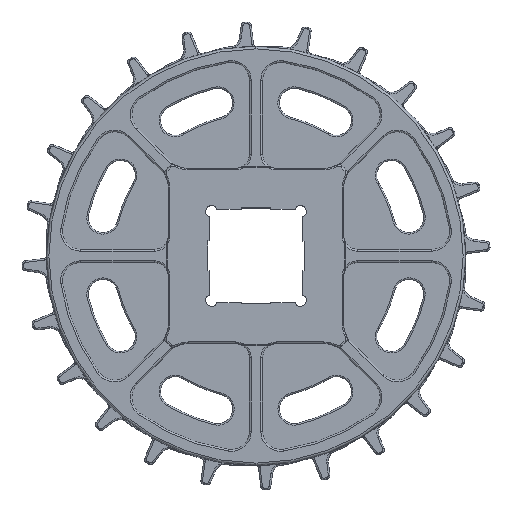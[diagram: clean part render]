
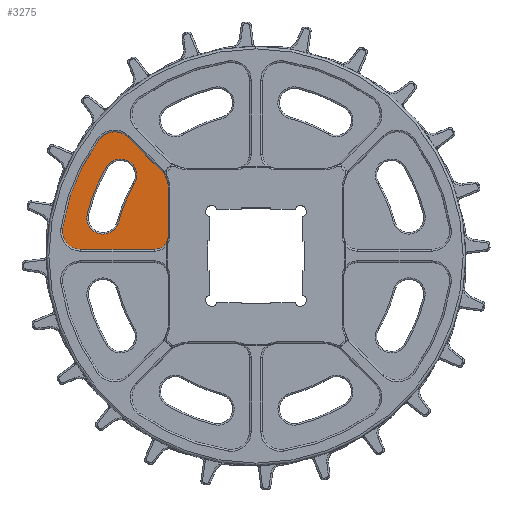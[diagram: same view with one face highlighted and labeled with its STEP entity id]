
A CAD part, top view. The second image highlights one B-rep face of the part: STEP entity #3275.
In plain terms, the highlighted planar face has unit normal (0, 0, 1).
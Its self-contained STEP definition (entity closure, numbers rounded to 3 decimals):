
#3275=ADVANCED_FACE('',(#4997,#4998),#4791,.F.);
#4791=PLANE('',#25807);
#4997=FACE_BOUND('',#5077,.T.);
#4998=FACE_BOUND('',#5078,.T.);
#5077=EDGE_LOOP('',(#9981,#9982,#9983,#9984,#9985));
#5078=EDGE_LOOP('',(#9986,#9987,#9988,#9989,#9990,#9991,#9992,#9993,#9994,
#9995,#9996,#9997,#9998));
#6747=LINE('',#36138,#7545);
#6748=LINE('',#36148,#7546);
#6749=LINE('',#36159,#7547);
#7545=VECTOR('',#28831,1.);
#7546=VECTOR('',#28840,1.);
#7547=VECTOR('',#28845,1.);
#8419=CIRCLE('',#25795,6.96);
#8420=CIRCLE('',#25796,6.96);
#8421=CIRCLE('',#25797,60.67);
#8422=CIRCLE('',#25798,6.96);
#8423=CIRCLE('',#25799,74.589);
#8424=CIRCLE('',#25800,7.75);
#8425=CIRCLE('',#25801,8.356);
#8426=CIRCLE('',#25802,83.809);
#8427=CIRCLE('',#25803,7.851);
#8428=CIRCLE('',#25804,7.851);
#8429=CIRCLE('',#25805,6.034);
#8430=CIRCLE('',#25806,5.961);
#9981=ORIENTED_EDGE('',*,*,#20313,.T.);
#9982=ORIENTED_EDGE('',*,*,#20314,.T.);
#9983=ORIENTED_EDGE('',*,*,#20315,.T.);
#9984=ORIENTED_EDGE('',*,*,#20316,.T.);
#9985=ORIENTED_EDGE('',*,*,#20317,.T.);
#9986=ORIENTED_EDGE('',*,*,#20318,.F.);
#9987=ORIENTED_EDGE('',*,*,#20319,.T.);
#9988=ORIENTED_EDGE('',*,*,#20320,.T.);
#9989=ORIENTED_EDGE('',*,*,#20321,.T.);
#9990=ORIENTED_EDGE('',*,*,#20322,.T.);
#9991=ORIENTED_EDGE('',*,*,#20323,.T.);
#9992=ORIENTED_EDGE('',*,*,#20324,.T.);
#9993=ORIENTED_EDGE('',*,*,#20325,.T.);
#9994=ORIENTED_EDGE('',*,*,#20326,.T.);
#9995=ORIENTED_EDGE('',*,*,#20327,.F.);
#9996=ORIENTED_EDGE('',*,*,#20328,.F.);
#9997=ORIENTED_EDGE('',*,*,#20329,.F.);
#9998=ORIENTED_EDGE('',*,*,#20330,.F.);
#17845=VERTEX_POINT('',#36121);
#17846=VERTEX_POINT('',#36122);
#17847=VERTEX_POINT('',#36124);
#17848=VERTEX_POINT('',#36126);
#17849=VERTEX_POINT('',#36128);
#17850=VERTEX_POINT('',#36134);
#17851=VERTEX_POINT('',#36135);
#17852=VERTEX_POINT('',#36137);
#17853=VERTEX_POINT('',#36139);
#17854=VERTEX_POINT('',#36141);
#17855=VERTEX_POINT('',#36143);
#17856=VERTEX_POINT('',#36145);
#17857=VERTEX_POINT('',#36147);
#17858=VERTEX_POINT('',#36149);
#17859=VERTEX_POINT('',#36151);
#17860=VERTEX_POINT('',#36156);
#17861=VERTEX_POINT('',#36158);
#17862=VERTEX_POINT('',#36160);
#20313=EDGE_CURVE('',#17845,#17846,#8419,.T.);
#20314=EDGE_CURVE('',#17846,#17847,#8420,.T.);
#20315=EDGE_CURVE('',#17847,#17848,#8421,.T.);
#20316=EDGE_CURVE('',#17848,#17849,#8422,.T.);
#20317=EDGE_CURVE('',#17849,#17845,#8423,.T.);
#20318=EDGE_CURVE('',#17850,#17851,#23945,.T.);
#20319=EDGE_CURVE('',#17850,#17852,#8424,.T.);
#20320=EDGE_CURVE('',#17852,#17853,#6747,.T.);
#20321=EDGE_CURVE('',#17853,#17854,#8425,.T.);
#20322=EDGE_CURVE('',#17854,#17855,#8426,.T.);
#20323=EDGE_CURVE('',#17855,#17856,#8427,.T.);
#20324=EDGE_CURVE('',#17856,#17857,#8428,.T.);
#20325=EDGE_CURVE('',#17857,#17858,#6748,.T.);
#20326=EDGE_CURVE('',#17858,#17859,#8429,.T.);
#20327=EDGE_CURVE('',#17860,#17859,#23946,.T.);
#20328=EDGE_CURVE('',#17861,#17860,#8430,.T.);
#20329=EDGE_CURVE('',#17862,#17861,#6749,.T.);
#20330=EDGE_CURVE('',#17851,#17862,#23947,.T.);
#23945=B_SPLINE_CURVE_WITH_KNOTS('',3,(#36130,#36131,#36132,#36133),
 .UNSPECIFIED.,.F.,.F.,(4,4),(0.,1.),.UNSPECIFIED.);
#23946=B_SPLINE_CURVE_WITH_KNOTS('',3,(#36152,#36153,#36154,#36155),
 .UNSPECIFIED.,.F.,.F.,(4,4),(0.,1.),.UNSPECIFIED.);
#23947=B_SPLINE_CURVE_WITH_KNOTS('',3,(#36161,#36162,#36163,#36164),
 .UNSPECIFIED.,.F.,.F.,(4,4),(0.,1.),.UNSPECIFIED.);
#25795=AXIS2_PLACEMENT_3D('',#36120,#28819,#28820);
#25796=AXIS2_PLACEMENT_3D('',#36123,#28821,#28822);
#25797=AXIS2_PLACEMENT_3D('',#36125,#28823,#28824);
#25798=AXIS2_PLACEMENT_3D('',#36127,#28825,#28826);
#25799=AXIS2_PLACEMENT_3D('',#36129,#28827,#28828);
#25800=AXIS2_PLACEMENT_3D('',#36136,#28829,#28830);
#25801=AXIS2_PLACEMENT_3D('',#36140,#28832,#28833);
#25802=AXIS2_PLACEMENT_3D('',#36142,#28834,#28835);
#25803=AXIS2_PLACEMENT_3D('',#36144,#28836,#28837);
#25804=AXIS2_PLACEMENT_3D('',#36146,#28838,#28839);
#25805=AXIS2_PLACEMENT_3D('',#36150,#28841,#28842);
#25806=AXIS2_PLACEMENT_3D('',#36157,#28843,#28844);
#25807=AXIS2_PLACEMENT_3D('',#36165,#28846,#28847);
#28819=DIRECTION('',(0.,0.,-1.));
#28820=DIRECTION('',(-0.859,0.512,0.));
#28821=DIRECTION('',(0.,0.,-1.));
#28822=DIRECTION('',(1.,0.,0.));
#28823=DIRECTION('',(0.,0.,1.));
#28824=DIRECTION('',(-0.859,0.512,0.));
#28825=DIRECTION('',(0.,0.,-1.));
#28826=DIRECTION('',(0.97,-0.242,0.));
#28827=DIRECTION('',(0.,0.,-1.));
#28828=DIRECTION('',(-0.97,0.242,0.));
#28829=DIRECTION('',(0.,0.,1.));
#28830=DIRECTION('',(1.,0.,0.));
#28831=DIRECTION('',(-0.707,0.707,0.));
#28832=DIRECTION('',(0.,0.,1.));
#28833=DIRECTION('',(0.707,0.707,0.));
#28834=DIRECTION('',(0.,0.,1.));
#28835=DIRECTION('',(-0.804,0.595,0.));
#28836=DIRECTION('',(0.,0.,1.));
#28837=DIRECTION('',(-0.99,0.14,0.));
#28838=DIRECTION('',(0.,0.,1.));
#28839=DIRECTION('',(-1.,0.,0.));
#28840=DIRECTION('',(1.,0.,0.));
#28841=DIRECTION('',(0.,0.,1.));
#28842=DIRECTION('',(0.,-1.,0.));
#28843=DIRECTION('',(0.,0.,-1.));
#28844=DIRECTION('',(-1.,0.,0.));
#28845=DIRECTION('',(0.,-1.,0.));
#28846=DIRECTION('',(0.,0.,-1.));
#28847=DIRECTION('',(-1.,0.,0.));
#36120=CARTESIAN_POINT('',(-458.085,34.64,-2.524));
#36121=CARTESIAN_POINT('',(-464.062,38.205,-2.524));
#36122=CARTESIAN_POINT('',(-451.125,34.64,-2.524));
#36123=CARTESIAN_POINT('',(-458.085,34.64,-2.524));
#36124=CARTESIAN_POINT('',(-452.108,31.075,-2.524));
#36125=CARTESIAN_POINT('',(-400.,0.,-2.524));
#36126=CARTESIAN_POINT('',(-458.869,14.673,-2.524));
#36127=CARTESIAN_POINT('',(-465.622,16.356,-2.524));
#36128=CARTESIAN_POINT('',(-472.375,18.039,-2.524));
#36129=CARTESIAN_POINT('',(-400.,0.,-2.524));
#36130=CARTESIAN_POINT('',(-439.203,35.175,-2.524));
#36131=CARTESIAN_POINT('',(-439.168,34.984,-2.524));
#36132=CARTESIAN_POINT('',(-439.104,34.797,-2.524));
#36133=CARTESIAN_POINT('',(-439.009,34.621,-2.523));
#36134=CARTESIAN_POINT('',(-439.203,35.175,-2.524));
#36135=CARTESIAN_POINT('',(-439.009,34.621,-2.524));
#36136=CARTESIAN_POINT('',(-445.272,30.354,-2.524));
#36137=CARTESIAN_POINT('',(-439.791,35.834,-2.524));
#36138=CARTESIAN_POINT('',(-439.791,35.834,-2.524));
#36139=CARTESIAN_POINT('',(-454.745,50.789,-2.524));
#36140=CARTESIAN_POINT('',(-460.654,44.88,-2.524));
#36141=CARTESIAN_POINT('',(-467.371,49.85,-2.524));
#36142=CARTESIAN_POINT('',(-400.,0.,-2.524));
#36143=CARTESIAN_POINT('',(-482.981,11.75,-2.524));
#36144=CARTESIAN_POINT('',(-475.207,10.649,-2.524));
#36145=CARTESIAN_POINT('',(-483.058,10.649,-2.524));
#36146=CARTESIAN_POINT('',(-475.207,10.649,-2.524));
#36147=CARTESIAN_POINT('',(-475.207,2.798,-2.524));
#36148=CARTESIAN_POINT('',(-475.207,2.798,-2.524));
#36149=CARTESIAN_POINT('',(-443.556,2.798,-2.524));
#36150=CARTESIAN_POINT('',(-443.556,8.832,-2.524));
#36151=CARTESIAN_POINT('',(-438.434,5.641,-2.524));
#36152=CARTESIAN_POINT('',(-438.234,6.147,-2.524));
#36153=CARTESIAN_POINT('',(-438.317,5.984,-2.524));
#36154=CARTESIAN_POINT('',(-438.383,5.814,-2.524));
#36155=CARTESIAN_POINT('',(-438.434,5.641,-2.524));
#36156=CARTESIAN_POINT('',(-438.234,6.147,-2.524));
#36157=CARTESIAN_POINT('',(-443.556,8.832,-2.524));
#36158=CARTESIAN_POINT('',(-437.595,8.832,-2.524));
#36159=CARTESIAN_POINT('',(-437.595,0.252,-2.524));
#36160=CARTESIAN_POINT('',(-437.595,29.018,-2.524));
#36161=CARTESIAN_POINT('',(-439.009,34.621,-2.524));
#36162=CARTESIAN_POINT('',(-438.09,32.916,-2.523));
#36163=CARTESIAN_POINT('',(-437.595,30.98,-2.524));
#36164=CARTESIAN_POINT('',(-437.595,29.018,-2.524));
#36165=CARTESIAN_POINT('',(-389.679,0.252,-2.524));
